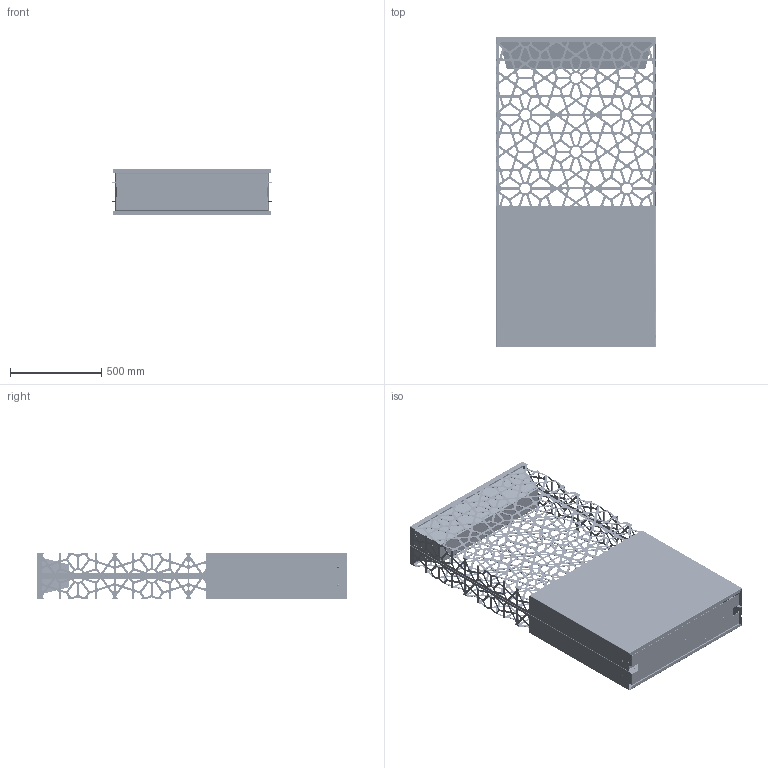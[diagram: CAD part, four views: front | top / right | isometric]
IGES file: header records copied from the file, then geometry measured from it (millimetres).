
Start section: SolidWorks IGES file using analytic representation for surfaces
Global section: file name: C:\VaultDeCastelli\Progetti\DC\PESO LEGGERO PRODOTTI\Ale\DeCastelli-3D-Dafne 170.igs; native system: SolidWorks 2022; preprocessor: SolidWorks 2022; author: AlessandroP; date: 240802.102744; units: millimetre
Bounding box: 881.6 x 1702.45 x 252.4 mm (x, y, z)
Surface area: 6593368.6 mm2 (no closed solid volume)
Topology: 0 solids, 0 shells, 3585 faces, 63584 edges, 63584 vertices
Faces by surface type: bspline 2107, revolution 1478
